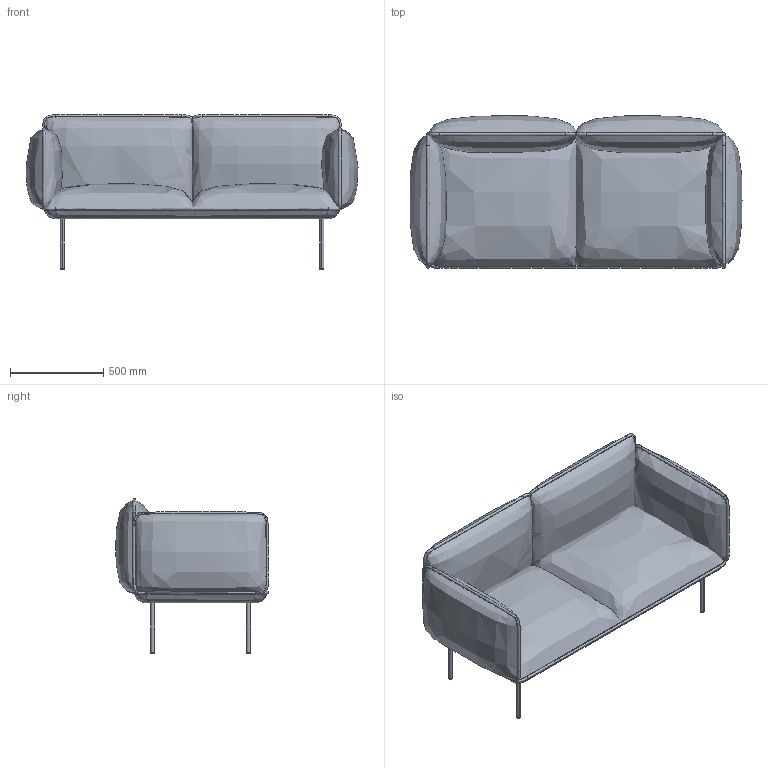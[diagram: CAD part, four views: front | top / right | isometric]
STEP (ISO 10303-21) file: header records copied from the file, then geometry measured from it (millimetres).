
FILE_DESCRIPTION(/* description */ (''),/* implementation_level */ '2;1');
FILE_NAME(/* name */ 'Nakki_2 seater',/* time_stamp */ '2020-04-03T17:19:58+02:00',/* author */ (''),/* organization */ (''),/* preprocessor_version */ 'ST-DEVELOPER v15',/* originating_system */ '',/* authorisation */ '');
FILE_SCHEMA (('AUTOMOTIVE_DESIGN'));
Length unit declared in the file: millimetre
Products named in the file (1): Document
Bounding box: 1780 x 818.18 x 827.31 mm (x, y, z)
Volume: 747945797.8 mm3; surface area: 13368454.5 mm2
Topology: 36 solids, 36 shells, 234 faces, 450 edges, 284 vertices
Faces by surface type: bspline 234
Entity records: 43915 total; most frequent: CARTESIAN_POINT 38006, B_SPLINE_CURVE_WITH_KNOTS 942, ORIENTED_EDGE 900, PCURVE 900, DEFINITIONAL_REPRESENTATION 900, SURFACE_CURVE 450, EDGE_CURVE 450, VERTEX_POINT 284
